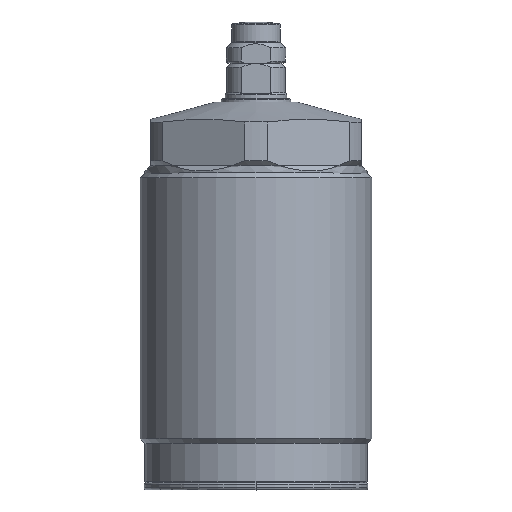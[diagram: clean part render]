
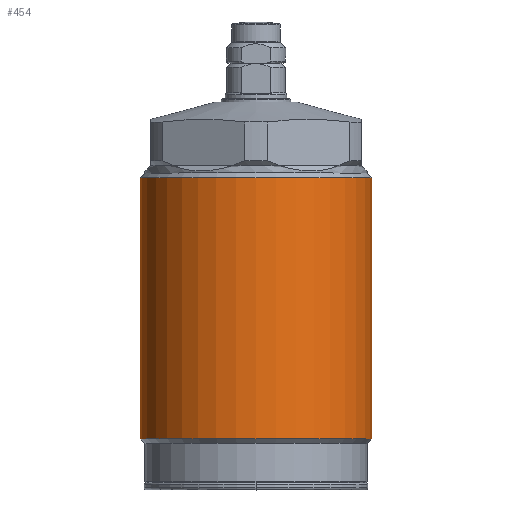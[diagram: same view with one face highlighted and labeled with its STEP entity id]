
A CAD part, top view. The second image highlights one B-rep face of the part: STEP entity #454.
In plain terms, the highlighted cylindrical face has radius 22.5 mm (diameter 45 mm), a full revolution.
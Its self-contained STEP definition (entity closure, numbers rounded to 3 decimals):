
#307=FACE_BOUND('',#856,.T.);
#308=FACE_BOUND('',#857,.T.);
#454=ADVANCED_FACE('',(#307,#308),#633,.T.);
#633=CYLINDRICAL_SURFACE('',#3020,22.5);
#856=EDGE_LOOP('',(#1324));
#857=EDGE_LOOP('',(#1325,#1326,#1327,#1328,#1329,#1330));
#1064=LINE('',#4516,#1179);
#1065=LINE('',#4521,#1180);
#1179=VECTOR('',#3489,1.);
#1180=VECTOR('',#3492,1.);
#1324=ORIENTED_EDGE('',*,*,#2383,.T.);
#1325=ORIENTED_EDGE('',*,*,#2384,.F.);
#1326=ORIENTED_EDGE('',*,*,#2384,.T.);
#1327=ORIENTED_EDGE('',*,*,#2385,.T.);
#1328=ORIENTED_EDGE('',*,*,#2386,.F.);
#1329=ORIENTED_EDGE('',*,*,#2386,.T.);
#1330=ORIENTED_EDGE('',*,*,#2387,.T.);
#2130=VERTEX_POINT('',#4515);
#2131=VERTEX_POINT('',#4517);
#2132=VERTEX_POINT('',#4518);
#2133=VERTEX_POINT('',#4520);
#2134=VERTEX_POINT('',#4522);
#2383=EDGE_CURVE('',#2130,#2130,#2771,.T.);
#2384=EDGE_CURVE('',#2131,#2132,#1064,.T.);
#2385=EDGE_CURVE('',#2132,#2133,#2772,.T.);
#2386=EDGE_CURVE('',#2134,#2133,#1065,.T.);
#2387=EDGE_CURVE('',#2133,#2132,#2773,.T.);
#2771=CIRCLE('',#3017,22.5);
#2772=CIRCLE('',#3018,22.5);
#2773=CIRCLE('',#3019,22.5);
#3017=AXIS2_PLACEMENT_3D('',#4514,#3487,#3488);
#3018=AXIS2_PLACEMENT_3D('',#4519,#3490,#3491);
#3019=AXIS2_PLACEMENT_3D('',#4523,#3493,#3494);
#3020=AXIS2_PLACEMENT_3D('',#4524,#3495,#3496);
#3487=DIRECTION('',(0.,-1.,0.));
#3488=DIRECTION('',(-1.,0.,0.));
#3489=DIRECTION('',(0.,-1.,0.));
#3490=DIRECTION('',(0.,1.,0.));
#3491=DIRECTION('',(-1.,0.,0.));
#3492=DIRECTION('',(0.,-1.,0.));
#3493=DIRECTION('',(0.,1.,0.));
#3494=DIRECTION('',(-1.,0.,0.));
#3495=DIRECTION('',(0.,1.,0.));
#3496=DIRECTION('',(-1.,0.,0.));
#4514=CARTESIAN_POINT('',(0.,59.4,0.));
#4515=CARTESIAN_POINT('',(-22.5,59.4,0.));
#4516=CARTESIAN_POINT('',(-22.5,66.3,0.));
#4517=CARTESIAN_POINT('',(-22.5,54.1,0.));
#4518=CARTESIAN_POINT('',(-22.5,8.6,0.));
#4519=CARTESIAN_POINT('',(0.,8.6,0.));
#4520=CARTESIAN_POINT('',(22.5,8.6,0.));
#4521=CARTESIAN_POINT('',(22.5,66.3,0.));
#4522=CARTESIAN_POINT('',(22.5,54.1,0.));
#4523=CARTESIAN_POINT('',(0.,8.6,0.));
#4524=CARTESIAN_POINT('',(0.,66.3,0.));
